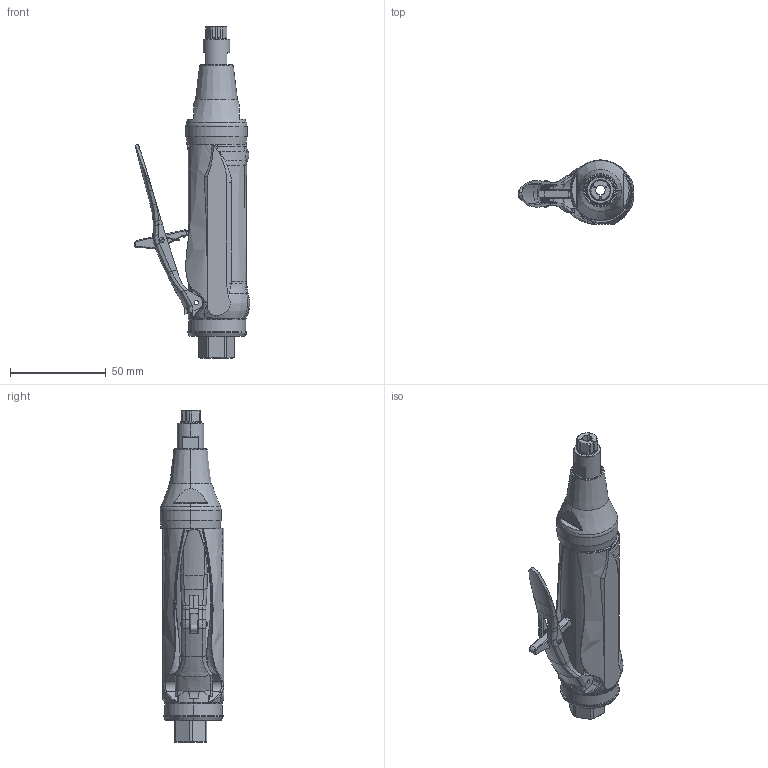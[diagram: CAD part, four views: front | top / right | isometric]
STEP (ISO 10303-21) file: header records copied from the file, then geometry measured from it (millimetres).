
FILE_DESCRIPTION((''),'2;1');
FILE_NAME('6151700320_EXT_ASM','2014-06-27T',('greextfpav'),(''),'PRO/ENGINEER BY PARAMETRIC TECHNOLOGY CORPORATION, 2013410','PRO/ENGINEER BY PARAMETRIC TECHNOLOGY CORPORATION, 2013410','');
FILE_SCHEMA(('AUTOMOTIVE_DESIGN { 1 0 10303 214 1 1 1 1 }'));
Length unit declared in the file: millimetre
Products named in the file (12): KC300-2; KC300-10; KC300-9; KC300-8; KC300-7; KC300-1; KC300-6; KC300-5; KC300-4; KC300-3; _KC300_IGS; 6151700320_EXT_ASM
Assembly tree (11 placements, depth 2):
  6151700320_EXT_ASM
    KC300-2
    KC300-10
    KC300-9
    KC300-8
    KC300-7
    KC300-1
    KC300-6
    KC300-5
    KC300-4
    KC300-3
    _KC300_IGS
Bounding box: 60.42 x 33.5 x 173.8 mm (x, y, z)
Volume: 47572.2 mm3; surface area: 40572.3 mm2
Topology: 10 solids, 14 shells, 974 faces, 2742 edges, 1774 vertices
Faces by surface type: cylinder 442, plane 214, bspline 170, cone 88, torus 35, extrusion 17, sphere 8
Entity records: 53620 total; most frequent: CARTESIAN_POINT 19367, ORIENTED_EDGE 5404, DIRECTION 4832, EDGE_CURVE 2710, AXIS2_PLACEMENT_3D 1991, VERTEX_POINT 1770, EDGE_LOOP 1188, CIRCLE 1181
